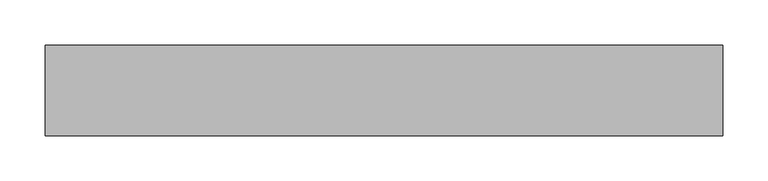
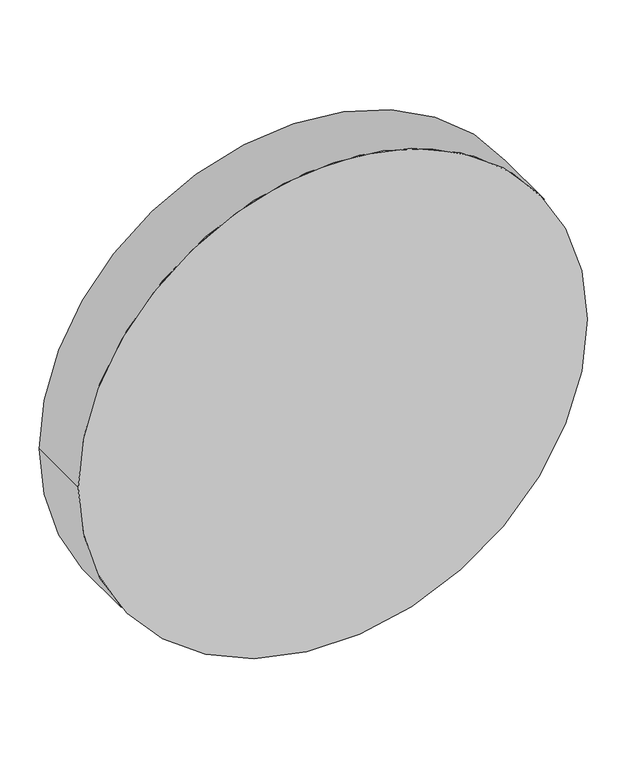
"""IFC4 building model written with IfcOpenShell, lengths in millimetres: proxy geometry, 600mm Cass D Cover-01."""

from ifc_helpers import new_model, si_unit, point, frame, origin, origin_2d, place, context, project, spatial, circle_curve, trimmed, segment, composite_curve, outline, extrude, source, transform, mapped, element, save


def generic_models_2a316d6d(model_context):
    return source(origin(), model_context, "Body", "SweptSolid", [
        extrude(outline(composite_curve([segment(trimmed(circle_curve(origin_2d(), 375.0), [point((0.0, 375.0))], [point((0.0, -375.0))], False, "CARTESIAN"), True, "CONTINUOUS"), segment(trimmed(circle_curve(origin_2d(), 375.0), [point((0.0, -375.0))], [point((0.0, 375.0))], False, "CARTESIAN"), True, "CONTINUOUS")], self_intersect=False)), frame((0.0, 0.0, 0.0), z_axis=(0.0, 1.0, 0.0), x_axis=(0.0, 0.0, 1.0)), (0.0, 0.0, 1.0), 100.0),
    ])


if __name__ == "__main__":
    model = new_model("IFC4")
    model_context = context("Model", 3, world=origin())
    ifc_project = project(units=[si_unit("LENGTHUNIT", "METRE", prefix="MILLI")], contexts=[model_context])
    site = spatial("IfcSite", under=ifc_project)
    building = spatial("IfcBuilding", under=site)
    placement = place(None, origin())
    generic_models_shape = generic_models_2a316d6d(model_context)
    element("IfcBuildingElementProxy", 1, Name="600mm Cass D Cover-01", ObjectType="600mm Cass D Cover-01", at=placement, inside=building, context=model_context, shape_type="MappedRepresentation", body=[
        mapped(generic_models_shape, transform((0.0, 0.0, 0.0), x_axis=(1.0, 0.0, 0.0), y_axis=(0.0, 1.0, 0.0), z_axis=(0.0, 0.0, 1.0))),
    ])
    save(model, "model.ifc")
